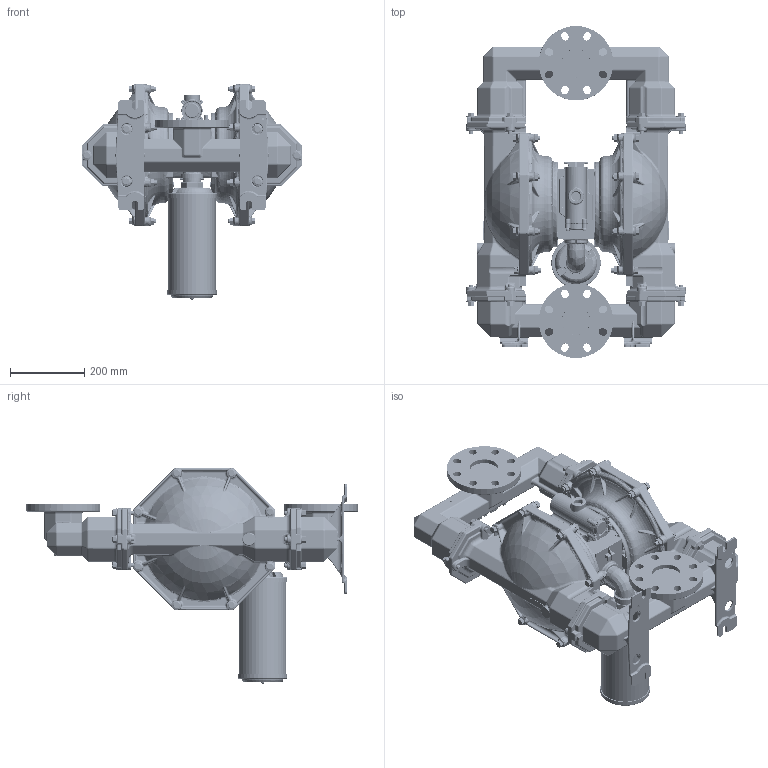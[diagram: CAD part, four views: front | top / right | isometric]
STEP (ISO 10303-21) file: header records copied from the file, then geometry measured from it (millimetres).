
FILE_DESCRIPTION(/* description */ (''),/* implementation_level */ '2;1');
FILE_NAME(/* name */ 'PD30S-FXX-XXX-C_L.stp',/* time_stamp */ '2019-04-23T06:48:52-04:00',/* author */ (''),/* organization */ (''),/* preprocessor_version */ 'ST-DEVELOPER v14',/* originating_system */ 'SIEMENS PLM Software NX 8.0',/* authorisation */ '');
FILE_SCHEMA (('CONFIG_CONTROL_DESIGN'));
Length unit declared in the file: inch
Products named in the file (1): PD30S-FXX-XXX-C_L_stp
Bounding box: 589.56 x 891.88 x 579.15 mm (x, y, z)
Volume: 48808892.4 mm3; surface area: 2155645.7 mm2
Topology: 1 solids, 1 shells, 9080 faces, 21323 edges, 12322 vertices
Faces by surface type: cylinder 2370, bspline 2363, plane 2261, torus 991, cone 698, sphere 392, extrusion 5
Entity records: 424039 total; most frequent: CARTESIAN_POINT 235362, ORIENTED_EDGE 42586, DIRECTION 35827, EDGE_CURVE 21293, AXIS2_PLACEMENT_3D 14406, VERTEX_POINT 12322, EDGE_LOOP 9241, ADVANCED_FACE 9080
